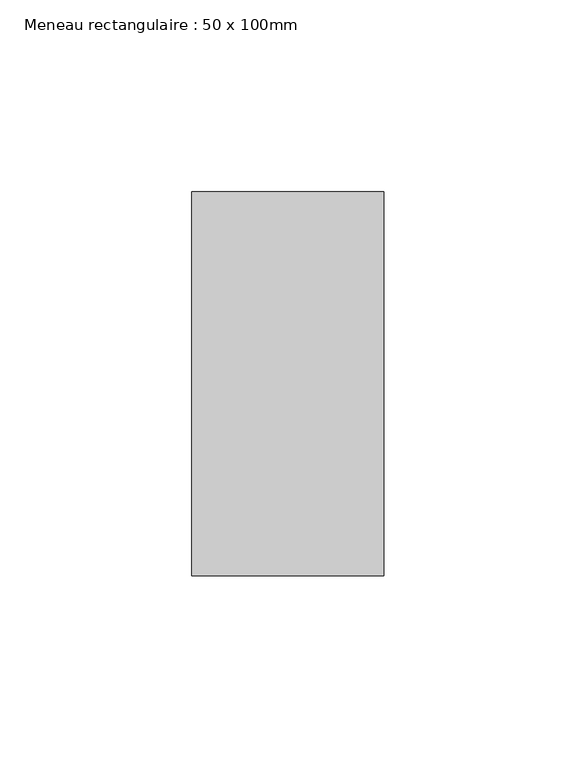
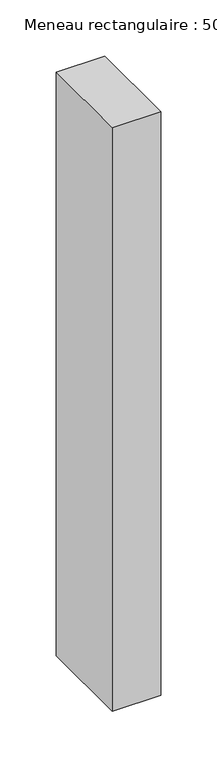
"""IFC4 building model written with IfcOpenShell, lengths in millimetres: member geometry, Meneau rectangulaire : 50 x 100mm."""

from ifc_helpers import new_model, si_unit, frame, origin, place, context, project, spatial, polyline, outline, extrude, source, transform, mapped, element, save


def meneau_rectangulaire_50_x_100mm_b23c1ce9(model_context):
    return source(origin(), model_context, "Body", "SweptSolid", [
        extrude(outline(polyline([(0.0, 50.0), (0.0, -50.0), (-50.0, -50.0), (-50.0, 50.0), (0.0, 50.0)])), frame((0.0, 0.0, -636.6666667), z_axis=(0.0, 0.0, 1.0), x_axis=(1.0, 0.0, 0.0)), (0.0, 0.0, 1.0), 636.6666667),
    ])


if __name__ == "__main__":
    model = new_model("IFC4")
    model_context = context("Model", 3, world=origin())
    ifc_project = project(units=[si_unit("LENGTHUNIT", "METRE", prefix="MILLI")], contexts=[model_context])
    site = spatial("IfcSite", under=ifc_project)
    building = spatial("IfcBuilding", under=site)
    placement = place(None, origin())
    meneau_rectangulaire_50_x_100mm_shape = meneau_rectangulaire_50_x_100mm_b23c1ce9(model_context)
    element("IfcMember", 1, ObjectType="Meneau rectangulaire : 50 x 100mm", at=placement, inside=building, context=model_context, shape_type="MappedRepresentation", body=[
        mapped(meneau_rectangulaire_50_x_100mm_shape, transform((0.0, 0.0, 0.0), x_axis=(1.0, 0.0, 0.0), y_axis=(0.0, 1.0, 0.0), z_axis=(0.0, 0.0, 1.0))),
    ])
    save(model, "model.ifc")
